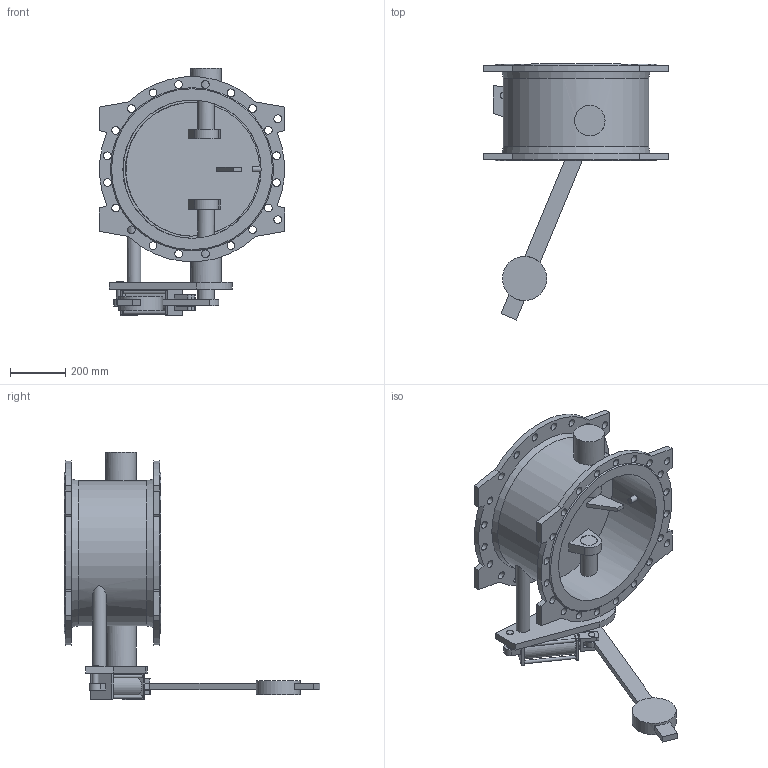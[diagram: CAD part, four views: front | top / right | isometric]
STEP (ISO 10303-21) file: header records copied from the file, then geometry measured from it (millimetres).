
FILE_DESCRIPTION(('STEP AP203'), '1');
FILE_NAME('Êëàïàí 015F.PV DN500 PN10 ñ ïðîòèâîâåñîì ñ äåìïôåðîì', '', ('UNSPECIFIED'), ('UNSPECIFIED'), 'ASCON STEP Converter 1.6', 'ASCON Math Kernel', '');
FILE_SCHEMA(('CONFIG_CONTROL_DESIGN'));
Length unit declared in the file: millimetre
Bounding box: 670 x 925 x 895 mm (x, y, z)
Volume: 25892577.9 mm3; surface area: 2973629.1 mm2
Topology: 1 solids, 1 shells, 207 faces, 524 edges, 347 vertices
Faces by surface type: plane 100, cylinder 98, cone 4, extrusion 2, torus 2, bspline 1
Full cylindrical faces by diameter (mm): 12 x5, 18 x2, 20 x1, 24 x7, 28 x44, 30 x1, 50 x1, 60 x3, 62 x2, 80 x1, 110 x2, 160 x1, 500 x1, 526 x1
Entity records: 9801 total; most frequent: CARTESIAN_POINT 3082, DIRECTION 1022, ORIENTED_EDGE 876, EDGE_CURVE 438, EDGE_LOOP 430, AXIS2_PLACEMENT_3D 403, VERTEX_POINT 346, FACE_BOUND 274
